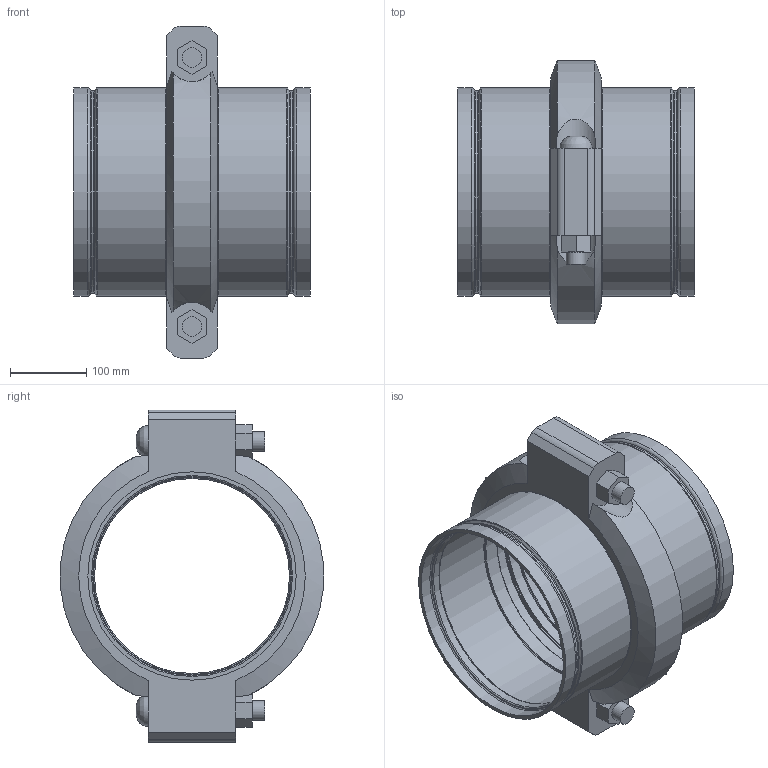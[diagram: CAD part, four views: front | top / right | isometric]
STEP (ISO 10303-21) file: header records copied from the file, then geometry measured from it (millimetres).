
FILE_DESCRIPTION(/* description */ ('VIC STRENGTHIN 100 EXPANSION JOINT 1 COUPLING EXPANDED STYLE E155 (ST1)','CAx-IF Rec.Pracs.---Representation and Presentation of Product Manufacturing Information (PMI)---4.0---2014-10-13'),/* implementation_level */ '2;1');
FILE_NAME(/* name */ 'C:\Users\Vjadhav\AppData\Roaming\Autodesk\ApplicationPlugins\Victaulic.Temp\A475\Victaulic_SS-StrengThin 100_Expansion Joint_Expanded_1 Coupling_Style E155 (ST1)_10 (250).stp',/* time_stamp */ '2021-07-23T19:22:15+06:00',/* author */ ('kkamble'),/* organization */ ('Victaulic'),/* preprocessor_version */ 'ST-DEVELOPER v17.2',/* originating_system */ 'Autodesk Inventor 2019',/* authorisation */ '');
FILE_SCHEMA (('AP242_MANAGED_MODEL_BASED_3D_ENGINEERING_MIM_LF { 1 0 10303 442 1 1 4 }'));
Length unit declared in the file: inch
Products named in the file (3): E155-10.0; E494G-10.0; 077-10.0
Assembly tree (3 placements, depth 2):
  E155-10.0
    E494G-10.0  x2
    077-10.0
Bounding box: 310.39 x 344.9 x 435.1 mm (x, y, z)
Volume: 4230001.7 mm3; surface area: 832919.2 mm2
Topology: 3 solids, 5 shells, 131 faces, 375 edges, 272 vertices
Faces by surface type: plane 50, cylinder 39, torus 32, cone 8, bspline 2
Full cylindrical faces by diameter (mm): 25.4 x4, 27.432 x2, 255.626 x2, 258.724 x2, 263.5 x6, 264.16 x1, 265.176 x2, 268.275 x2, 273.05 x8
Entity records: 3573 total; most frequent: CARTESIAN_POINT 771, DIRECTION 591, ORIENTED_EDGE 520, EDGE_CURVE 260, AXIS2_PLACEMENT_3D 251, VERTEX_POINT 185, CIRCLE 151, EDGE_LOOP 117
